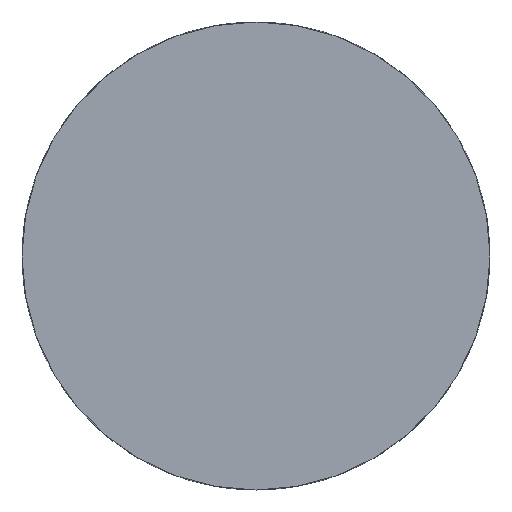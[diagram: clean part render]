
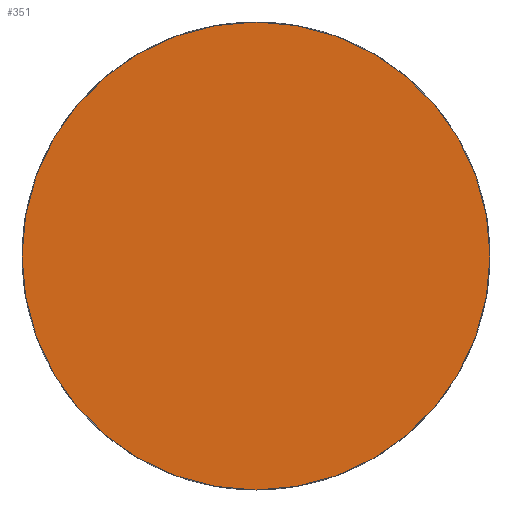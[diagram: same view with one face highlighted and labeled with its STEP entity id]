
A CAD part, left-side view. The second image highlights one B-rep face of the part: STEP entity #351.
In plain terms, the highlighted planar face has unit normal (-1, 0, 0).
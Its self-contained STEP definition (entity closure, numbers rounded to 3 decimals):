
#351 = ADVANCED_FACE( '', ( #801 ), #802, .F. );
#801 = FACE_OUTER_BOUND( '', #1346, .T. );
#802 = PLANE( '', #1347 );
#1346 = EDGE_LOOP( '', ( #2539 ) );
#1347 = AXIS2_PLACEMENT_3D( '', #2540, #2541, #2542 );
#2539 = ORIENTED_EDGE( '', *, *, #3734, .F. );
#2540 = CARTESIAN_POINT( '', ( 0., 0., 0. ) );
#2541 = DIRECTION( '', ( 1., 0., 0. ) );
#2542 = DIRECTION( '', ( 0., 0., -1. ) );
#3734 = EDGE_CURVE( '', #4669, #4669, #4670, .T. );
#4669 = VERTEX_POINT( '', #5881 );
#4670 = CIRCLE( '', #5882, 10.125 );
#5881 = CARTESIAN_POINT( '', ( 0., 0., -10.125 ) );
#5882 = AXIS2_PLACEMENT_3D( '', #7033, #7034, #7035 );
#7033 = CARTESIAN_POINT( '', ( 0., 0., 0. ) );
#7034 = DIRECTION( '', ( 1., 0., 0. ) );
#7035 = DIRECTION( '', ( 0., 0., -1. ) );
